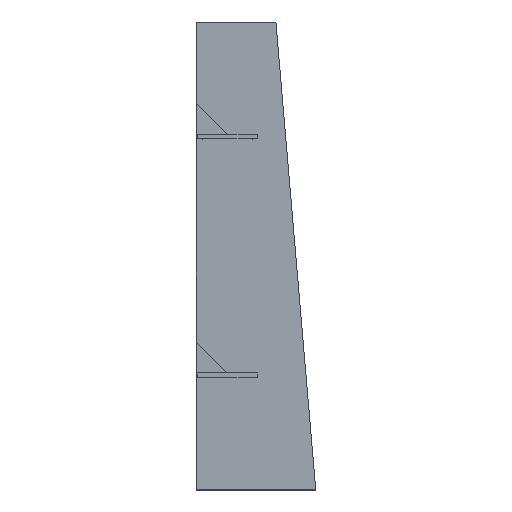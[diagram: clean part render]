
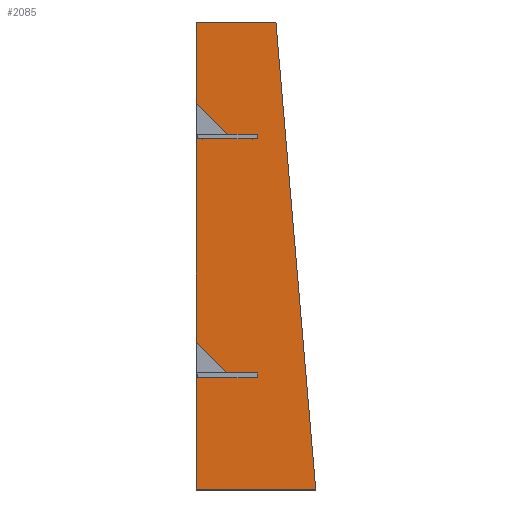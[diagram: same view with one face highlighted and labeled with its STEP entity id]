
A CAD part, left-side view. The second image highlights one B-rep face of the part: STEP entity #2085.
In plain terms, the highlighted planar face has unit normal (-1, 0, 0) as drawn and (0, 0, 1) by its records, which use the part's own axes.
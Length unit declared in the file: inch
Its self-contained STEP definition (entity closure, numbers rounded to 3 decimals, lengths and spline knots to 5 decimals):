
#141=FACE_OUTER_BOUND('',#245,.T.);
#245=EDGE_LOOP('',(#1767,#1768,#1769,#1770,#1771,#1772,#1773,#1774,#1775,
#1776,#1777,#1778,#1779,#1780,#1781,#1782,#1783,#1784));
#478=LINE('',#3227,#766);
#480=LINE('',#3232,#768);
#482=LINE('',#3237,#770);
#486=LINE('',#3245,#774);
#489=LINE('',#3251,#777);
#492=LINE('',#3258,#780);
#496=LINE('',#3266,#784);
#499=LINE('',#3271,#787);
#501=LINE('',#3274,#789);
#502=LINE('',#3276,#790);
#503=LINE('',#3278,#791);
#504=LINE('',#3280,#792);
#505=LINE('',#3282,#793);
#506=LINE('',#3284,#794);
#507=LINE('',#3286,#795);
#508=LINE('',#3288,#796);
#509=LINE('',#3290,#797);
#510=LINE('',#3291,#798);
#766=VECTOR('',#2639,0.3937);
#768=VECTOR('',#2643,0.3937);
#770=VECTOR('',#2647,0.3937);
#774=VECTOR('',#2653,0.3937);
#777=VECTOR('',#2658,0.3937);
#780=VECTOR('',#2663,0.3937);
#784=VECTOR('',#2669,0.3937);
#787=VECTOR('',#2674,0.3937);
#789=VECTOR('',#2678,0.3937);
#790=VECTOR('',#2679,0.3937);
#791=VECTOR('',#2680,0.3937);
#792=VECTOR('',#2681,0.3937);
#793=VECTOR('',#2682,0.3937);
#794=VECTOR('',#2683,0.3937);
#795=VECTOR('',#2684,0.3937);
#796=VECTOR('',#2685,0.3937);
#797=VECTOR('',#2686,0.3937);
#798=VECTOR('',#2687,0.3937);
#983=VERTEX_POINT('',#3220);
#986=VERTEX_POINT('',#3225);
#988=VERTEX_POINT('',#3231);
#989=VERTEX_POINT('',#3235);
#990=VERTEX_POINT('',#3236);
#993=VERTEX_POINT('',#3244);
#995=VERTEX_POINT('',#3250);
#997=VERTEX_POINT('',#3256);
#998=VERTEX_POINT('',#3257);
#1001=VERTEX_POINT('',#3265);
#1003=VERTEX_POINT('',#3275);
#1004=VERTEX_POINT('',#3277);
#1005=VERTEX_POINT('',#3279);
#1006=VERTEX_POINT('',#3281);
#1007=VERTEX_POINT('',#3283);
#1008=VERTEX_POINT('',#3285);
#1009=VERTEX_POINT('',#3287);
#1010=VERTEX_POINT('',#3289);
#1246=EDGE_CURVE('',#983,#986,#478,.T.);
#1248=EDGE_CURVE('',#988,#983,#480,.T.);
#1250=EDGE_CURVE('',#989,#990,#482,.T.);
#1254=EDGE_CURVE('',#990,#993,#486,.T.);
#1257=EDGE_CURVE('',#993,#995,#489,.T.);
#1260=EDGE_CURVE('',#997,#998,#492,.T.);
#1264=EDGE_CURVE('',#998,#1001,#496,.T.);
#1267=EDGE_CURVE('',#1001,#989,#499,.T.);
#1269=EDGE_CURVE('',#986,#997,#501,.T.);
#1270=EDGE_CURVE('',#995,#1003,#502,.T.);
#1271=EDGE_CURVE('',#1003,#1004,#503,.T.);
#1272=EDGE_CURVE('',#1004,#1005,#504,.T.);
#1273=EDGE_CURVE('',#1005,#1006,#505,.T.);
#1274=EDGE_CURVE('',#1006,#1007,#506,.T.);
#1275=EDGE_CURVE('',#1007,#1008,#507,.T.);
#1276=EDGE_CURVE('',#1008,#1009,#508,.T.);
#1277=EDGE_CURVE('',#1009,#1010,#509,.T.);
#1278=EDGE_CURVE('',#1010,#988,#510,.T.);
#1767=ORIENTED_EDGE('',*,*,#1248,.T.);
#1768=ORIENTED_EDGE('',*,*,#1246,.T.);
#1769=ORIENTED_EDGE('',*,*,#1269,.T.);
#1770=ORIENTED_EDGE('',*,*,#1260,.T.);
#1771=ORIENTED_EDGE('',*,*,#1264,.T.);
#1772=ORIENTED_EDGE('',*,*,#1267,.T.);
#1773=ORIENTED_EDGE('',*,*,#1250,.T.);
#1774=ORIENTED_EDGE('',*,*,#1254,.T.);
#1775=ORIENTED_EDGE('',*,*,#1257,.T.);
#1776=ORIENTED_EDGE('',*,*,#1270,.T.);
#1777=ORIENTED_EDGE('',*,*,#1271,.T.);
#1778=ORIENTED_EDGE('',*,*,#1272,.T.);
#1779=ORIENTED_EDGE('',*,*,#1273,.T.);
#1780=ORIENTED_EDGE('',*,*,#1274,.T.);
#1781=ORIENTED_EDGE('',*,*,#1275,.T.);
#1782=ORIENTED_EDGE('',*,*,#1276,.T.);
#1783=ORIENTED_EDGE('',*,*,#1277,.T.);
#1784=ORIENTED_EDGE('',*,*,#1278,.T.);
#1981=PLANE('',#2248);
#2085=ADVANCED_FACE('',(#141),#1981,.T.);
#2248=AXIS2_PLACEMENT_3D('',#3273,#2676,#2677);
#2639=DIRECTION('',(0.,1.,0.));
#2643=DIRECTION('',(0.996,0.085,0.));
#2647=DIRECTION('',(0.,1.,0.));
#2653=DIRECTION('',(1.,0.,0.));
#2658=DIRECTION('',(0.,1.,0.));
#2663=DIRECTION('',(-0.703,-0.711,0.));
#2669=DIRECTION('',(0.,-1.,0.));
#2674=DIRECTION('',(-1.,0.,0.));
#2676=DIRECTION('center_axis',(0.,0.,1.));
#2677=DIRECTION('ref_axis',(1.,0.,0.));
#2678=DIRECTION('',(-1.,0.,0.));
#2679=DIRECTION('',(-1.,0.,0.));
#2680=DIRECTION('',(-0.703,-0.711,0.));
#2681=DIRECTION('',(0.,-1.,0.));
#2682=DIRECTION('',(-1.,0.,0.));
#2683=DIRECTION('',(0.,1.,0.));
#2684=DIRECTION('',(1.,0.,0.));
#2685=DIRECTION('',(0.,1.,0.));
#2686=DIRECTION('',(-1.,0.,0.));
#2687=DIRECTION('',(0.,-1.,0.));
#3220=CARTESIAN_POINT('',(47.,2.,0.48));
#3225=CARTESIAN_POINT('',(47.,10.,0.48));
#3227=CARTESIAN_POINT('',(47.,0.,0.48));
#3231=CARTESIAN_POINT('',(0.,-2.,0.48));
#3232=CARTESIAN_POINT('',(35.46124,1.01798,0.48));
#3235=CARTESIAN_POINT('',(35.25,4.375,0.48));
#3236=CARTESIAN_POINT('',(35.25,9.375,0.48));
#3237=CARTESIAN_POINT('',(35.25,7.1875,0.48));
#3244=CARTESIAN_POINT('',(35.495,9.375,0.48));
#3245=CARTESIAN_POINT('',(29.4975,9.375,0.48));
#3250=CARTESIAN_POINT('',(35.495,10.,0.48));
#3251=CARTESIAN_POINT('',(35.495,7.5,0.48));
#3256=CARTESIAN_POINT('',(38.8409,10.,0.48));
#3257=CARTESIAN_POINT('',(35.75,6.875,0.48));
#3258=CARTESIAN_POINT('',(32.25238,3.33879,0.48));
#3265=CARTESIAN_POINT('',(35.75,4.375,0.48));
#3266=CARTESIAN_POINT('',(35.75,4.6875,0.48));
#3271=CARTESIAN_POINT('',(29.375,4.375,0.48));
#3273=CARTESIAN_POINT('Origin',(23.5,5.,0.48));
#3274=CARTESIAN_POINT('',(47.,10.,0.48));
#3275=CARTESIAN_POINT('',(14.8409,10.,0.48));
#3276=CARTESIAN_POINT('',(47.,10.,0.48));
#3277=CARTESIAN_POINT('',(11.75,6.875,0.48));
#3278=CARTESIAN_POINT('',(14.18655,9.33843,0.48));
#3279=CARTESIAN_POINT('',(11.75,4.375,0.48));
#3280=CARTESIAN_POINT('',(11.75,4.6875,0.48));
#3281=CARTESIAN_POINT('',(11.25,4.375,0.48));
#3282=CARTESIAN_POINT('',(17.375,4.375,0.48));
#3283=CARTESIAN_POINT('',(11.25,9.375,0.48));
#3284=CARTESIAN_POINT('',(11.25,7.1875,0.48));
#3285=CARTESIAN_POINT('',(11.495,9.375,0.48));
#3286=CARTESIAN_POINT('',(17.4975,9.375,0.48));
#3287=CARTESIAN_POINT('',(11.495,10.,0.48));
#3288=CARTESIAN_POINT('',(11.495,7.5,0.48));
#3289=CARTESIAN_POINT('',(0.,10.,0.48));
#3290=CARTESIAN_POINT('',(47.,10.,0.48));
#3291=CARTESIAN_POINT('',(0.,10.,0.48));
